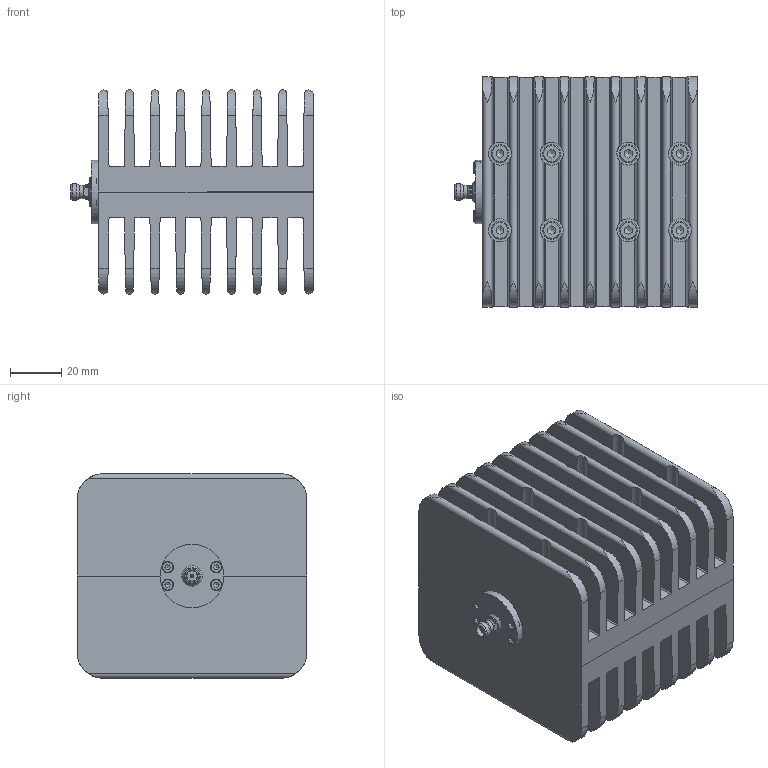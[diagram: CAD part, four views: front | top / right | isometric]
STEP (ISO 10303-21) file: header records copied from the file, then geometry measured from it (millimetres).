
FILE_DESCRIPTION(('STEP AP203'), '1');
FILE_NAME('ÏÐ1-24 SMAF', '', ('UNSPECIFIED'), ('UNSPECIFIED'), 'ASCON STEP Converter 1.6', 'ASCON Math Kernel', '');
FILE_SCHEMA(('CONFIG_CONTROL_DESIGN'));
Length unit declared in the file: millimetre
Assembly tree (19 placements, depth 3):
  (unnamed)
    (unnamed)
    (unnamed)
    (unnamed)
    (unnamed)  x8
    (unnamed)  x4
    (unnamed)
      (unnamed)
      (unnamed)
      (unnamed)
Bounding box: 95 x 90 x 80 mm (x, y, z)
Volume: 316638.5 mm3; surface area: 141147 mm2
Topology: 18 solids, 18 shells, 495 faces, 1306 edges, 864 vertices
Faces by surface type: plane 239, cylinder 187, cone 43, torus 26
Full cylindrical faces by diameter (mm): 0.5 x1, 0.8 x1, 0.93 x1, 1.17 x1, 1.27 x1, 2.013 x4, 2.5 x8, 3.242 x12, 3.8 x4, 4 x8, 4.1 x2, 4.5 x12, 4.6 x1, 5 x1, 5.188 x1, 6.35 x1, 7 x8, 8 x1, 9 x8, 25 x1
Entity records: 19085 total; most frequent: CARTESIAN_POINT 7246, ORIENTED_EDGE 1768, DIRECTION 1594, EDGE_CURVE 884, VERTEX_POINT 642, AXIS2_PLACEMENT_3D 597, EDGE_LOOP 480, LINE 400
